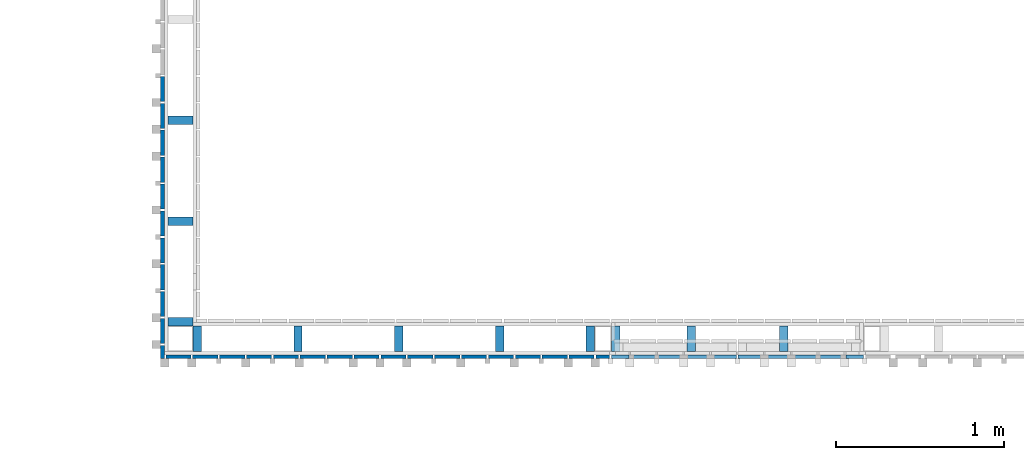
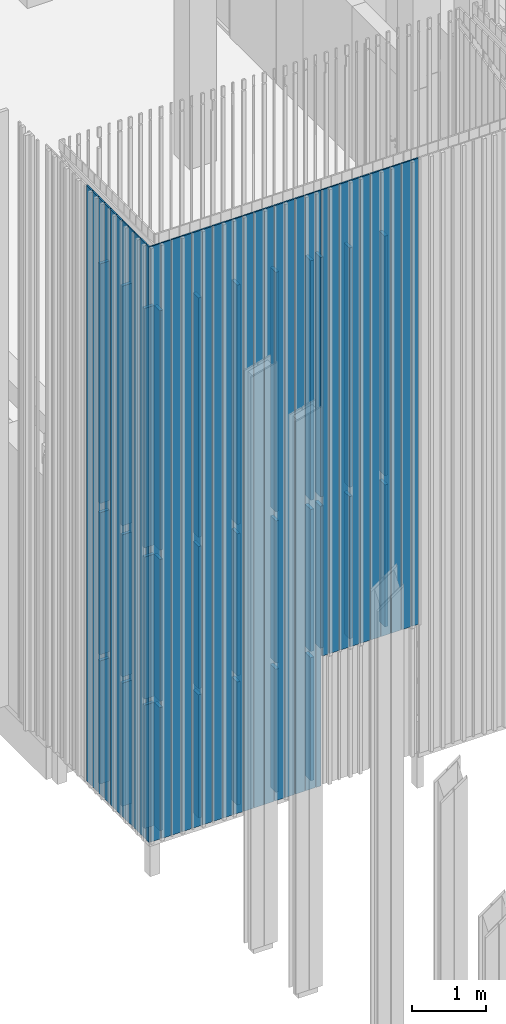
# One storey, part 82 of 390: 68 walls.
"""IFC2X3 building model written with IfcOpenShell, lengths in millimetres."""

from ifc_helpers import new_model, entity, si_unit, converted_unit, derived_unit, money_unit, direction, frame, origin_with_axes, place, context, subcontext, project, spatial, faceted_brep, material, type_object, element, save


model = new_model("IFC2X3")

# Units and contexts
model_context = context("Model", 3, precision=1e-05, world=origin_with_axes(), true_north=direction((0.0, 1.0)))
body_context = subcontext(model_context, "Body", "Model", "MODEL_VIEW")
ifc_project = project(units=[si_unit("LENGTHUNIT", "METRE", prefix="MILLI"), si_unit("AREAUNIT", "SQUARE_METRE"), si_unit("VOLUMEUNIT", "CUBIC_METRE"), converted_unit("PLANEANGLEUNIT", "DEGREE", entity("IfcPlaneAngleMeasure", 0.0174532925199), si_unit("PLANEANGLEUNIT", "RADIAN"), dimensions=[0, 0, 0, 0, 0, 0, 0]), si_unit("SOLIDANGLEUNIT", "STERADIAN"), money_unit("EUR"), converted_unit("TIMEUNIT", "Year", entity("IfcTimeMeasure", 31556926.0), si_unit("TIMEUNIT", "SECOND"), dimensions=[0, 0, 1, 0, 0, 0, 0]), si_unit("MASSUNIT", "GRAM", prefix="KILO"), si_unit("THERMODYNAMICTEMPERATUREUNIT", "DEGREE_CELSIUS"), si_unit("LUMINOUSINTENSITYUNIT", "LUMEN"), si_unit("ENERGYUNIT", "JOULE", prefix="MEGA"), derived_unit("THERMALCONDUCTANCEUNIT", [(si_unit("POWERUNIT", "WATT"), 1), (si_unit("LENGTHUNIT", "METRE"), -1), (si_unit("THERMODYNAMICTEMPERATUREUNIT", "KELVIN"), -1)]), derived_unit("SPECIFICHEATCAPACITYUNIT", [(si_unit("ENERGYUNIT", "JOULE"), 1), (si_unit("MASSUNIT", "GRAM", prefix="KILO"), -1), (si_unit("THERMODYNAMICTEMPERATUREUNIT", "KELVIN"), -1)]), derived_unit("MASSDENSITYUNIT", [(si_unit("MASSUNIT", "GRAM", prefix="KILO"), 1), (si_unit("VOLUMEUNIT", "CUBIC_METRE"), -1)])], contexts=[model_context])

# Site, building, storey
site_placement = place(None, origin_with_axes())
site = spatial("IfcSite", under=ifc_project, at=site_placement, Name="Site", CompositionType="ELEMENT")
building_placement = place(site_placement, origin_with_axes())
building = spatial("IfcBuilding", under=site, at=building_placement, Name="Building", CompositionType="ELEMENT")
storey_placement = place(building_placement, origin_with_axes())
storey = spatial("IfcBuildingStorey", under=building, at=storey_placement, Name="1 korrus", CompositionType="ELEMENT", Elevation=0.0)

# Walls
ifc_material = material(Name="Site specified")
wall_type = type_object("IfcWallType", Name="Puitfassaadi ribistik", PredefinedType="NOTDEFINED")
wall_1_placement = place(storey_placement, frame((125594.99996, 42599.000112, 4800.00000001), z_axis=(0.0, 0.0, 1.0), x_axis=(-1.0, 0.0, 0.0)))
element("IfcWall", 1, at=wall_1_placement, inside=storey, type_object=wall_type, material=ifc_material, Name="Site specified", context=body_context, shape_type="Brep", body=[
    faceted_brep([(25.0, -74.9999999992, 3927.99999761), (-25.0, -74.9999999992, 3927.99999761), (-25.0, -74.9999999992, 0.0), (25.0, -74.9999999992, 0.0), (25.0, 74.9999999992, 3927.99999761), (-25.0, 74.9999999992, 3927.99999761), (-25.0, 74.9999999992, 0.0), (25.0, 74.9999999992, 0.0)], [[[0, 1, 2, 3]], [[4, 5, 1, 0]], [[1, 5, 6, 2]], [[7, 3, 2, 6]], [[4, 0, 3, 7]], [[5, 4, 7, 6]]]),
])
wall_2_placement = place(storey_placement, frame((125469.99996, 42492.0000216, 2220.00000001), z_axis=(0.0, 0.0, 1.0), x_axis=(-1.0, 0.0, 0.0)))
element("IfcWall", 2, at=wall_2_placement, inside=storey, type_object=wall_type, material=ifc_material, Name="Site specified", context=body_context, shape_type="Brep", body=[
    faceted_brep([(75.0, -11.0000000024, 7644.99999999), (-75.0, -11.0000000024, 7644.99999999), (-75.0, -11.0000000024, 0.0), (75.0, -11.0000000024, 0.0), (75.0, 11.0000000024, 7644.99999999), (-75.0, 11.0000000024, 7644.99999999), (-75.0, 11.0000000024, 0.0), (75.0, 11.0000000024, 0.0)], [[[0, 1, 2, 3]], [[4, 5, 1, 0]], [[1, 5, 6, 2]], [[7, 3, 2, 6]], [[4, 0, 3, 7]], [[5, 4, 7, 6]]]),
])
wall_3_placement = place(storey_placement, frame((125172.49996, 42492.0000291, 2220.00000001), z_axis=(0.0, 0.0, 1.0), x_axis=(-1.0, 0.0, 0.0)))
element("IfcWall", 3, at=wall_3_placement, inside=storey, type_object=wall_type, material=ifc_material, Name="Site specified", context=body_context, shape_type="Brep", body=[
    faceted_brep([(52.5, -11.0000000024, 7644.99999999), (-52.5, -11.0000000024, 7644.99999999), (-52.5, -11.0000000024, 0.0), (52.5, -11.0000000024, 0.0), (52.5, 11.0000000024, 7644.99999999), (-52.5, 11.0000000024, 7644.99999999), (-52.5, 11.0000000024, 0.0), (52.5, 11.0000000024, 0.0)], [[[0, 1, 2, 3]], [[4, 5, 1, 0]], [[1, 5, 6, 2]], [[7, 3, 2, 6]], [[4, 0, 3, 7]], [[5, 4, 7, 6]]]),
])
for number, where, z_axis, x_axis, name in (
    (4, (125309.99996, 42492.0000216, 2220.00000001), (0.0, 0.0, 1.0), (-1.0, 0.0, 0.0), "Site specified"),
    (5, (125949.99996, 42492.0000216, 2220.00000001), (0.0, 0.0, 1.0), (-1.0, 0.0, 0.0), "Site specified"),
    (6, (126429.99996, 42492.0000216, 2220.00000001), (0.0, 0.0, 1.0), (-1.0, 0.0, 0.0), "Site specified"),
    (7, (126109.99996, 42492.0000216, 2220.00000001), (0.0, 0.0, 1.0), (-1.0, 0.0, 0.0), "Site specified"),
    (8, (126269.99996, 42492.0000216, 2220.00000001), (0.0, 0.0, 1.0), (-1.0, 0.0, 0.0), "Site specified"),
    (9, (125789.99996, 42492.0000216, 2220.00000001), (0.0, 0.0, 1.0), (-1.0, 0.0, 0.0), "Site specified"),
):
    element("IfcWall", number, at=place(storey_placement, frame(where, z_axis=z_axis, x_axis=x_axis)), inside=storey, type_object=wall_type, material=ifc_material, Name=name, context=body_context, shape_type="Brep", body=[
        faceted_brep([(75.0, -11.0000000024, 7644.99999999), (-75.0, -11.0000000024, 7644.99999999), (-75.0, -11.0000000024, 0.0), (75.0, -11.0000000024, 0.0), (75.0, 11.0000000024, 7644.99999999), (-75.0, 11.0000000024, 7644.99999999), (-75.0, 11.0000000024, 0.0), (75.0, 11.0000000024, 0.0)], [[[0, 1, 2, 3]], [[4, 5, 1, 0]], [[1, 5, 6, 2]], [[7, 3, 2, 6]], [[4, 0, 3, 7]], [[5, 4, 7, 6]]]),
    ])
for number, where, z_axis, x_axis, name in (
    (10, (123662.99996, 42492.0000895, 100.000000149), (0.0, 0.0, 1.0), (-1.0, 0.0, 0.0), "Site specified"),
    (11, (122447.99996, 43285.0001117, 100.000000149), (0.0, 0.0, 1.0), (0.0, 1.0, 0.0), "Site specified"),
    (12, (122447.99996, 43445.0001117, 100.000000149), (0.0, 0.0, 1.0), (0.0, 1.0, 0.0), "Site specified"),
    (13, (122447.99996, 43605.0001117, 100.000000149), (0.0, 0.0, 1.0), (0.0, 1.0, 0.0), "Site specified"),
    (14, (122447.99996, 43765.0001117, 100.000000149), (0.0, 0.0, 1.0), (0.0, 1.0, 0.0), "Site specified"),
    (15, (122447.99996, 43925.0001117, 100.000000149), (0.0, 0.0, 1.0), (0.0, 1.0, 0.0), "Site specified"),
    (16, (122447.99996, 44085.0001117, 100.000000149), (0.0, 0.0, 1.0), (0.0, 1.0, 0.0), "Site specified"),
):
    element("IfcWall", number, at=place(storey_placement, frame(where, z_axis=z_axis, x_axis=x_axis)), inside=storey, type_object=wall_type, material=ifc_material, Name=name, context=body_context, shape_type="Brep", body=[
        faceted_brep([(75.0, -11.0000000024, 9764.99999985), (-75.0, -11.0000000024, 9764.99999985), (-75.0, -11.0000000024, 0.0), (75.0, -11.0000000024, 0.0), (75.0, 11.0000000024, 9764.99999985), (-75.0, 11.0000000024, 9764.99999985), (-75.0, 11.0000000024, 0.0), (75.0, 11.0000000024, 0.0)], [[[0, 1, 2, 3]], [[4, 5, 1, 0]], [[1, 5, 6, 2]], [[7, 3, 2, 6]], [[4, 0, 3, 7]], [[5, 4, 7, 6]]]),
    ])
wall_4_placement = place(storey_placement, frame((126567.49996, 42492.0000291, 2220.00000001), z_axis=(0.0, 0.0, 1.0), x_axis=(-1.0, 0.0, 0.0)))
element("IfcWall", 17, at=wall_4_placement, inside=storey, type_object=wall_type, material=ifc_material, Name="Site specified", context=body_context, shape_type="Brep", body=[
    faceted_brep([(52.4999999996, -11.0000000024, 7644.99999999), (-52.4999999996, -11.0000000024, 7644.99999999), (-52.4999999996, -11.0000000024, 0.0), (52.4999999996, -11.0000000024, 0.0), (52.4999999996, 11.0000000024, 7644.99999999), (-52.4999999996, 11.0000000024, 7644.99999999), (-52.4999999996, 11.0000000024, 0.0), (52.4999999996, 11.0000000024, 0.0)], [[[0, 1, 2, 3]], [[4, 5, 1, 0]], [[1, 5, 6, 2]], [[7, 3, 2, 6]], [[4, 0, 3, 7]], [[5, 4, 7, 6]]]),
])
wall_5_placement = place(storey_placement, frame((122554.99996, 42699.000112, 4800.00000001), z_axis=(0.0, 0.0, 1.0), x_axis=(0.0, 1.0, 0.0)))
element("IfcWall", 18, at=wall_5_placement, inside=storey, type_object=wall_type, material=ifc_material, Name="Site specified", context=body_context, shape_type="Brep", body=[
    faceted_brep([(25.0, -74.9999999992, 3927.99999761), (-25.0, -74.9999999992, 3927.99999761), (-25.0, -74.9999999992, 0.0), (25.0, -74.9999999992, 0.0), (25.0, 74.9999999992, 3927.99999761), (-25.0, 74.9999999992, 3927.99999761), (-25.0, 74.9999999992, 0.0), (25.0, 74.9999999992, 0.0)], [[[0, 1, 2, 3]], [[4, 5, 1, 0]], [[1, 5, 6, 2]], [[7, 3, 2, 6]], [[4, 0, 3, 7]], [[5, 4, 7, 6]]]),
])
wall_6_placement = place(storey_placement, frame((122554.99996, 42699.000112, 2320.00000001), z_axis=(0.0, 0.0, 1.0), x_axis=(0.0, 1.0, 0.0)))
element("IfcWall", 19, at=wall_6_placement, inside=storey, type_object=wall_type, material=ifc_material, Name="Site specified", context=body_context, shape_type="Brep", body=[
    faceted_brep([(25.0, -74.9999999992, 2330.0), (-25.0, -74.9999999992, 2330.0), (-25.0, -74.9999999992, 0.0), (25.0, -74.9999999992, 0.0), (25.0, 74.9999999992, 2330.0), (-25.0, 74.9999999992, 2330.0), (-25.0, 74.9999999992, 0.0), (25.0, 74.9999999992, 0.0)], [[[0, 1, 2, 3]], [[4, 5, 1, 0]], [[1, 5, 6, 2]], [[7, 3, 2, 6]], [[4, 0, 3, 7]], [[5, 4, 7, 6]]]),
])
wall_7_placement = place(storey_placement, frame((125629.99996, 42492.0000216, 2220.00000001), z_axis=(0.0, 0.0, 1.0), x_axis=(-1.0, 0.0, 0.0)))
element("IfcWall", 20, at=wall_7_placement, inside=storey, type_object=wall_type, material=ifc_material, Name="Site specified", context=body_context, shape_type="Brep", body=[
    faceted_brep([(75.0, -11.0000000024, 7644.99999999), (-75.0, -11.0000000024, 7644.99999999), (-75.0, -11.0000000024, 0.0), (75.0, -11.0000000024, 0.0), (75.0, 11.0000000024, 7644.99999999), (-75.0, 11.0000000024, 7644.99999999), (-75.0, 11.0000000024, 0.0), (75.0, 11.0000000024, 0.0)], [[[0, 1, 2, 3]], [[4, 5, 1, 0]], [[1, 5, 6, 2]], [[7, 3, 2, 6]], [[4, 0, 3, 7]], [[5, 4, 7, 6]]]),
])
wall_8_placement = place(storey_placement, frame((122554.99996, 43899.0001117, 4800.00000001), z_axis=(0.0, 0.0, 1.0), x_axis=(0.0, 1.0, 0.0)))
element("IfcWall", 21, at=wall_8_placement, inside=storey, type_object=wall_type, material=ifc_material, Name="Site specified", context=body_context, shape_type="Brep", body=[
    faceted_brep([(25.0, -74.9999999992, 3927.99999761), (-25.0, -74.9999999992, 3927.99999761), (-25.0, -74.9999999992, 0.0), (25.0, -74.9999999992, 0.0), (25.0, 74.9999999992, 3927.99999761), (-25.0, 74.9999999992, 3927.99999761), (-25.0, 74.9999999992, 0.0), (25.0, 74.9999999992, 0.0)], [[[0, 1, 2, 3]], [[4, 5, 1, 0]], [[1, 5, 6, 2]], [[7, 3, 2, 6]], [[4, 0, 3, 7]], [[5, 4, 7, 6]]]),
])
wall_9_placement = place(storey_placement, frame((122554.99996, 43899.0001117, 2320.00000001), z_axis=(0.0, 0.0, 1.0), x_axis=(0.0, 1.0, 0.0)))
element("IfcWall", 22, at=wall_9_placement, inside=storey, type_object=wall_type, material=ifc_material, Name="Site specified", context=body_context, shape_type="Brep", body=[
    faceted_brep([(25.0, -74.9999999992, 2330.0), (-25.0, -74.9999999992, 2330.0), (-25.0, -74.9999999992, 0.0), (25.0, -74.9999999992, 0.0), (25.0, 74.9999999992, 2330.0), (-25.0, 74.9999999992, 2330.0), (-25.0, 74.9999999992, 0.0), (25.0, 74.9999999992, 0.0)], [[[0, 1, 2, 3]], [[4, 5, 1, 0]], [[1, 5, 6, 2]], [[7, 3, 2, 6]], [[4, 0, 3, 7]], [[5, 4, 7, 6]]]),
])
wall_10_placement = place(storey_placement, frame((122554.99996, 43899.0001117, 200.000000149), z_axis=(0.0, 0.0, 1.0), x_axis=(0.0, 1.0, 0.0)))
element("IfcWall", 23, at=wall_10_placement, inside=storey, type_object=wall_type, material=ifc_material, Name="Site specified", context=body_context, shape_type="Brep", body=[
    faceted_brep([(25.0, -74.9999999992, 2019.99999987), (-25.0, -74.9999999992, 2019.99999987), (-25.0, -74.9999999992, 0.0), (25.0, -74.9999999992, 0.0), (25.0, 74.9999999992, 2019.99999987), (-25.0, 74.9999999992, 2019.99999987), (-25.0, 74.9999999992, 0.0), (25.0, 74.9999999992, 0.0)], [[[0, 1, 2, 3]], [[4, 5, 1, 0]], [[1, 5, 6, 2]], [[7, 3, 2, 6]], [[4, 0, 3, 7]], [[5, 4, 7, 6]]]),
])
wall_11_placement = place(storey_placement, frame((122554.99996, 43299.0001117, 4800.00000001), z_axis=(0.0, 0.0, 1.0), x_axis=(0.0, 1.0, 0.0)))
element("IfcWall", 24, at=wall_11_placement, inside=storey, type_object=wall_type, material=ifc_material, Name="Site specified", context=body_context, shape_type="Brep", body=[
    faceted_brep([(25.0, -74.9999999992, 3927.99999761), (-25.0, -74.9999999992, 3927.99999761), (-25.0, -74.9999999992, 0.0), (25.0, -74.9999999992, 0.0), (25.0, 74.9999999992, 3927.99999761), (-25.0, 74.9999999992, 3927.99999761), (-25.0, 74.9999999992, 0.0), (25.0, 74.9999999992, 0.0)], [[[0, 1, 2, 3]], [[4, 5, 1, 0]], [[1, 5, 6, 2]], [[7, 3, 2, 6]], [[4, 0, 3, 7]], [[5, 4, 7, 6]]]),
])
wall_12_placement = place(storey_placement, frame((122554.99996, 43299.0001117, 2320.00000001), z_axis=(0.0, 0.0, 1.0), x_axis=(0.0, 1.0, 0.0)))
element("IfcWall", 25, at=wall_12_placement, inside=storey, type_object=wall_type, material=ifc_material, Name="Site specified", context=body_context, shape_type="Brep", body=[
    faceted_brep([(25.0, -74.9999999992, 2330.0), (-25.0, -74.9999999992, 2330.0), (-25.0, -74.9999999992, 0.0), (25.0, -74.9999999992, 0.0), (25.0, 74.9999999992, 2330.0), (-25.0, 74.9999999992, 2330.0), (-25.0, 74.9999999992, 0.0), (25.0, 74.9999999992, 0.0)], [[[0, 1, 2, 3]], [[4, 5, 1, 0]], [[1, 5, 6, 2]], [[7, 3, 2, 6]], [[4, 0, 3, 7]], [[5, 4, 7, 6]]]),
])
for number, where, z_axis, x_axis, name in (
    (26, (122554.99996, 43299.0001117, 200.000000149), (0.0, 0.0, 1.0), (0.0, 1.0, 0.0), "Site specified"),
    (27, (122554.99996, 42699.000112, 200.000000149), (0.0, 0.0, 1.0), (0.0, 1.0, 0.0), "Site specified"),
):
    element("IfcWall", number, at=place(storey_placement, frame(where, z_axis=z_axis, x_axis=x_axis)), inside=storey, type_object=wall_type, material=ifc_material, Name=name, context=body_context, shape_type="Brep", body=[
        faceted_brep([(25.0, -74.9999999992, 2019.99999987), (-25.0, -74.9999999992, 2019.99999987), (-25.0, -74.9999999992, 0.0), (25.0, -74.9999999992, 0.0), (25.0, 74.9999999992, 2019.99999987), (-25.0, 74.9999999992, 2019.99999987), (-25.0, 74.9999999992, 0.0), (25.0, 74.9999999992, 0.0)], [[[0, 1, 2, 3]], [[4, 5, 1, 0]], [[1, 5, 6, 2]], [[7, 3, 2, 6]], [[4, 0, 3, 7]], [[5, 4, 7, 6]]]),
    ])
wall_13_placement = place(storey_placement, frame((124994.99996, 42599.000112, 4800.00000001), z_axis=(0.0, 0.0, 1.0), x_axis=(-1.0, 0.0, 0.0)))
element("IfcWall", 28, at=wall_13_placement, inside=storey, type_object=wall_type, material=ifc_material, Name="Site specified", context=body_context, shape_type="Brep", body=[
    faceted_brep([(25.0, -74.9999999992, 3927.99999761), (-25.0, -74.9999999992, 3927.99999761), (-25.0, -74.9999999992, 0.0), (25.0, -74.9999999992, 0.0), (25.0, 74.9999999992, 3927.99999761), (-25.0, 74.9999999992, 3927.99999761), (-25.0, 74.9999999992, 0.0), (25.0, 74.9999999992, 0.0)], [[[0, 1, 2, 3]], [[4, 5, 1, 0]], [[1, 5, 6, 2]], [[7, 3, 2, 6]], [[4, 0, 3, 7]], [[5, 4, 7, 6]]]),
])
wall_14_placement = place(storey_placement, frame((124994.99996, 42599.000112, 2320.00000001), z_axis=(0.0, 0.0, 1.0), x_axis=(-1.0, 0.0, 0.0)))
element("IfcWall", 29, at=wall_14_placement, inside=storey, type_object=wall_type, material=ifc_material, Name="Site specified", context=body_context, shape_type="Brep", body=[
    faceted_brep([(25.0, -74.9999999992, 2330.0), (-25.0, -74.9999999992, 2330.0), (-25.0, -74.9999999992, 0.0), (25.0, -74.9999999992, 0.0), (25.0, 74.9999999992, 2330.0), (-25.0, 74.9999999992, 2330.0), (-25.0, 74.9999999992, 0.0), (25.0, 74.9999999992, 0.0)], [[[0, 1, 2, 3]], [[4, 5, 1, 0]], [[1, 5, 6, 2]], [[7, 3, 2, 6]], [[4, 0, 3, 7]], [[5, 4, 7, 6]]]),
])
wall_15_placement = place(storey_placement, frame((124994.99996, 42599.000112, 200.000000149), z_axis=(0.0, 0.0, 1.0), x_axis=(-1.0, 0.0, 0.0)))
element("IfcWall", 30, at=wall_15_placement, inside=storey, type_object=wall_type, material=ifc_material, Name="Site specified", context=body_context, shape_type="Brep", body=[
    faceted_brep([(25.0, -74.9999999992, 2019.99999987), (-25.0, -74.9999999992, 2019.99999987), (-25.0, -74.9999999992, 0.0), (25.0, -74.9999999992, 0.0), (25.0, 74.9999999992, 2019.99999987), (-25.0, 74.9999999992, 2019.99999987), (-25.0, 74.9999999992, 0.0), (25.0, 74.9999999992, 0.0)], [[[0, 1, 2, 3]], [[4, 5, 1, 0]], [[1, 5, 6, 2]], [[7, 3, 2, 6]], [[4, 0, 3, 7]], [[5, 4, 7, 6]]]),
])
wall_16_placement = place(storey_placement, frame((124454.99996, 42599.000112, 4800.00000001), z_axis=(0.0, 0.0, 1.0), x_axis=(-1.0, 0.0, 0.0)))
element("IfcWall", 31, at=wall_16_placement, inside=storey, type_object=wall_type, material=ifc_material, Name="Site specified", context=body_context, shape_type="Brep", body=[
    faceted_brep([(25.0, -74.9999999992, 3927.99999761), (-25.0, -74.9999999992, 3927.99999761), (-25.0, -74.9999999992, 0.0), (25.0, -74.9999999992, 0.0), (25.0, 74.9999999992, 3927.99999761), (-25.0, 74.9999999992, 3927.99999761), (-25.0, 74.9999999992, 0.0), (25.0, 74.9999999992, 0.0)], [[[0, 1, 2, 3]], [[4, 5, 1, 0]], [[1, 5, 6, 2]], [[7, 3, 2, 6]], [[4, 0, 3, 7]], [[5, 4, 7, 6]]]),
])
wall_17_placement = place(storey_placement, frame((124454.99996, 42599.000112, 2320.00000001), z_axis=(0.0, 0.0, 1.0), x_axis=(-1.0, 0.0, 0.0)))
element("IfcWall", 32, at=wall_17_placement, inside=storey, type_object=wall_type, material=ifc_material, Name="Site specified", context=body_context, shape_type="Brep", body=[
    faceted_brep([(25.0, -74.9999999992, 2330.0), (-25.0, -74.9999999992, 2330.0), (-25.0, -74.9999999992, 0.0), (25.0, -74.9999999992, 0.0), (25.0, 74.9999999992, 2330.0), (-25.0, 74.9999999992, 2330.0), (-25.0, 74.9999999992, 0.0), (25.0, 74.9999999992, 0.0)], [[[0, 1, 2, 3]], [[4, 5, 1, 0]], [[1, 5, 6, 2]], [[7, 3, 2, 6]], [[4, 0, 3, 7]], [[5, 4, 7, 6]]]),
])
wall_18_placement = place(storey_placement, frame((124454.99996, 42599.000112, 200.000000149), z_axis=(0.0, 0.0, 1.0), x_axis=(-1.0, 0.0, 0.0)))
element("IfcWall", 33, at=wall_18_placement, inside=storey, type_object=wall_type, material=ifc_material, Name="Site specified", context=body_context, shape_type="Brep", body=[
    faceted_brep([(25.0, -74.9999999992, 2019.99999987), (-25.0, -74.9999999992, 2019.99999987), (-25.0, -74.9999999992, 0.0), (25.0, -74.9999999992, 0.0), (25.0, 74.9999999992, 2019.99999987), (-25.0, 74.9999999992, 2019.99999987), (-25.0, 74.9999999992, 0.0), (25.0, 74.9999999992, 0.0)], [[[0, 1, 2, 3]], [[4, 5, 1, 0]], [[1, 5, 6, 2]], [[7, 3, 2, 6]], [[4, 0, 3, 7]], [[5, 4, 7, 6]]]),
])
wall_19_placement = place(storey_placement, frame((123854.99996, 42599.000112, 4800.00000001), z_axis=(0.0, 0.0, 1.0), x_axis=(-1.0, 0.0, 0.0)))
element("IfcWall", 34, at=wall_19_placement, inside=storey, type_object=wall_type, material=ifc_material, Name="Site specified", context=body_context, shape_type="Brep", body=[
    faceted_brep([(25.0, -74.9999999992, 3927.99999761), (-25.0, -74.9999999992, 3927.99999761), (-25.0, -74.9999999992, 0.0), (25.0, -74.9999999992, 0.0), (25.0, 74.9999999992, 3927.99999761), (-25.0, 74.9999999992, 3927.99999761), (-25.0, 74.9999999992, 0.0), (25.0, 74.9999999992, 0.0)], [[[0, 1, 2, 3]], [[4, 5, 1, 0]], [[1, 5, 6, 2]], [[7, 3, 2, 6]], [[4, 0, 3, 7]], [[5, 4, 7, 6]]]),
])
wall_20_placement = place(storey_placement, frame((123854.99996, 42599.000112, 2320.00000001), z_axis=(0.0, 0.0, 1.0), x_axis=(-1.0, 0.0, 0.0)))
element("IfcWall", 35, at=wall_20_placement, inside=storey, type_object=wall_type, material=ifc_material, Name="Site specified", context=body_context, shape_type="Brep", body=[
    faceted_brep([(25.0, -74.9999999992, 2330.0), (-25.0, -74.9999999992, 2330.0), (-25.0, -74.9999999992, 0.0), (25.0, -74.9999999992, 0.0), (25.0, 74.9999999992, 2330.0), (-25.0, 74.9999999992, 2330.0), (-25.0, 74.9999999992, 0.0), (25.0, 74.9999999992, 0.0)], [[[0, 1, 2, 3]], [[4, 5, 1, 0]], [[1, 5, 6, 2]], [[7, 3, 2, 6]], [[4, 0, 3, 7]], [[5, 4, 7, 6]]]),
])
wall_21_placement = place(storey_placement, frame((123854.99996, 42599.000112, 200.000000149), z_axis=(0.0, 0.0, 1.0), x_axis=(-1.0, 0.0, 0.0)))
element("IfcWall", 36, at=wall_21_placement, inside=storey, type_object=wall_type, material=ifc_material, Name="Site specified", context=body_context, shape_type="Brep", body=[
    faceted_brep([(25.0, -74.9999999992, 2019.99999987), (-25.0, -74.9999999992, 2019.99999987), (-25.0, -74.9999999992, 0.0), (25.0, -74.9999999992, 0.0), (25.0, 74.9999999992, 2019.99999987), (-25.0, 74.9999999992, 2019.99999987), (-25.0, 74.9999999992, 0.0), (25.0, 74.9999999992, 0.0)], [[[0, 1, 2, 3]], [[4, 5, 1, 0]], [[1, 5, 6, 2]], [[7, 3, 2, 6]], [[4, 0, 3, 7]], [[5, 4, 7, 6]]]),
])
wall_22_placement = place(storey_placement, frame((123254.99996, 42599.000112, 4800.00000001), z_axis=(0.0, 0.0, 1.0), x_axis=(-1.0, 0.0, 0.0)))
element("IfcWall", 37, at=wall_22_placement, inside=storey, type_object=wall_type, material=ifc_material, Name="Site specified", context=body_context, shape_type="Brep", body=[
    faceted_brep([(25.0, -74.9999999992, 3927.99999761), (-25.0, -74.9999999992, 3927.99999761), (-25.0, -74.9999999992, 0.0), (25.0, -74.9999999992, 0.0), (25.0, 74.9999999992, 3927.99999761), (-25.0, 74.9999999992, 3927.99999761), (-25.0, 74.9999999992, 0.0), (25.0, 74.9999999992, 0.0)], [[[0, 1, 2, 3]], [[4, 5, 1, 0]], [[1, 5, 6, 2]], [[7, 3, 2, 6]], [[4, 0, 3, 7]], [[5, 4, 7, 6]]]),
])
wall_23_placement = place(storey_placement, frame((123254.99996, 42599.000112, 2320.00000001), z_axis=(0.0, 0.0, 1.0), x_axis=(-1.0, 0.0, 0.0)))
element("IfcWall", 38, at=wall_23_placement, inside=storey, type_object=wall_type, material=ifc_material, Name="Site specified", context=body_context, shape_type="Brep", body=[
    faceted_brep([(25.0, -74.9999999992, 2330.0), (-25.0, -74.9999999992, 2330.0), (-25.0, -74.9999999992, 0.0), (25.0, -74.9999999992, 0.0), (25.0, 74.9999999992, 2330.0), (-25.0, 74.9999999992, 2330.0), (-25.0, 74.9999999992, 0.0), (25.0, 74.9999999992, 0.0)], [[[0, 1, 2, 3]], [[4, 5, 1, 0]], [[1, 5, 6, 2]], [[7, 3, 2, 6]], [[4, 0, 3, 7]], [[5, 4, 7, 6]]]),
])
wall_24_placement = place(storey_placement, frame((123254.99996, 42599.000112, 200.000000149), z_axis=(0.0, 0.0, 1.0), x_axis=(-1.0, 0.0, 0.0)))
element("IfcWall", 39, at=wall_24_placement, inside=storey, type_object=wall_type, material=ifc_material, Name="Site specified", context=body_context, shape_type="Brep", body=[
    faceted_brep([(25.0, -74.9999999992, 2019.99999987), (-25.0, -74.9999999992, 2019.99999987), (-25.0, -74.9999999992, 0.0), (25.0, -74.9999999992, 0.0), (25.0, 74.9999999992, 2019.99999987), (-25.0, 74.9999999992, 2019.99999987), (-25.0, 74.9999999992, 0.0), (25.0, 74.9999999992, 0.0)], [[[0, 1, 2, 3]], [[4, 5, 1, 0]], [[1, 5, 6, 2]], [[7, 3, 2, 6]], [[4, 0, 3, 7]], [[5, 4, 7, 6]]]),
])
wall_25_placement = place(storey_placement, frame((122654.99996, 42599.0001117, 4800.00000001), z_axis=(0.0, 0.0, 1.0), x_axis=(-1.0, 0.0, 0.0)))
element("IfcWall", 40, at=wall_25_placement, inside=storey, type_object=wall_type, material=ifc_material, Name="Site specified", context=body_context, shape_type="Brep", body=[
    faceted_brep([(25.0, -74.9999999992, 3927.99999761), (-25.0, -74.9999999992, 3927.99999761), (-25.0, -74.9999999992, 0.0), (25.0, -74.9999999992, 0.0), (25.0, 74.9999999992, 3927.99999761), (-25.0, 74.9999999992, 3927.99999761), (-25.0, 74.9999999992, 0.0), (25.0, 74.9999999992, 0.0)], [[[0, 1, 2, 3]], [[4, 5, 1, 0]], [[1, 5, 6, 2]], [[7, 3, 2, 6]], [[4, 0, 3, 7]], [[5, 4, 7, 6]]]),
])
wall_26_placement = place(storey_placement, frame((122654.99996, 42599.0001117, 2320.00000001), z_axis=(0.0, 0.0, 1.0), x_axis=(-1.0, 0.0, 0.0)))
element("IfcWall", 41, at=wall_26_placement, inside=storey, type_object=wall_type, material=ifc_material, Name="Site specified", context=body_context, shape_type="Brep", body=[
    faceted_brep([(25.0, -74.9999999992, 2330.0), (-25.0, -74.9999999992, 2330.0), (-25.0, -74.9999999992, 0.0), (25.0, -74.9999999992, 0.0), (25.0, 74.9999999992, 2330.0), (-25.0, 74.9999999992, 2330.0), (-25.0, 74.9999999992, 0.0), (25.0, 74.9999999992, 0.0)], [[[0, 1, 2, 3]], [[4, 5, 1, 0]], [[1, 5, 6, 2]], [[7, 3, 2, 6]], [[4, 0, 3, 7]], [[5, 4, 7, 6]]]),
])
wall_27_placement = place(storey_placement, frame((122654.99996, 42599.0001117, 200.000000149), z_axis=(0.0, 0.0, 1.0), x_axis=(-1.0, 0.0, 0.0)))
element("IfcWall", 42, at=wall_27_placement, inside=storey, type_object=wall_type, material=ifc_material, Name="Site specified", context=body_context, shape_type="Brep", body=[
    faceted_brep([(25.0, -74.9999999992, 2019.99999987), (-25.0, -74.9999999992, 2019.99999987), (-25.0, -74.9999999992, 0.0), (25.0, -74.9999999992, 0.0), (25.0, 74.9999999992, 2019.99999987), (-25.0, 74.9999999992, 2019.99999987), (-25.0, 74.9999999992, 0.0), (25.0, 74.9999999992, 0.0)], [[[0, 1, 2, 3]], [[4, 5, 1, 0]], [[1, 5, 6, 2]], [[7, 3, 2, 6]], [[4, 0, 3, 7]], [[5, 4, 7, 6]]]),
])
for number, where, z_axis, x_axis, name in (
    (43, (122862.99996, 42492.0001045, 100.000000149), (0.0, 0.0, 1.0), (-1.0, 0.0, 0.0), "Site specified"),
    (44, (123022.99996, 42492.0001045, 100.000000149), (0.0, 0.0, 1.0), (-1.0, 0.0, 0.0), "Site specified"),
    (45, (123182.99996, 42492.000097, 100.000000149), (0.0, 0.0, 1.0), (-1.0, 0.0, 0.0), "Site specified"),
    (46, (122702.99996, 42492.000112, 100.000000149), (0.0, 0.0, 1.0), (-1.0, 0.0, 0.0), "Site specified"),
    (47, (122542.99996, 42492.000112, 100.000000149), (0.0, 0.0, 1.0), (-1.0, 0.0, 0.0), "Site specified"),
    (48, (123342.99996, 42492.000097, 100.000000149), (0.0, 0.0, 1.0), (-1.0, 0.0, 0.0), "Site specified"),
    (49, (123502.99996, 42492.0000895, 100.000000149), (0.0, 0.0, 1.0), (-1.0, 0.0, 0.0), "Site specified"),
    (50, (123822.99996, 42492.000082, 100.000000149), (0.0, 0.0, 1.0), (-1.0, 0.0, 0.0), "Site specified"),
    (51, (123982.99996, 42492.000082, 100.000000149), (0.0, 0.0, 1.0), (-1.0, 0.0, 0.0), "Site specified"),
    (52, (124462.99996, 42492.0000745, 100.000000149), (0.0, 0.0, 1.0), (-1.0, 0.0, 0.0), "Site specified"),
    (53, (124142.99996, 42492.0000745, 100.000000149), (0.0, 0.0, 1.0), (-1.0, 0.0, 0.0), "Site specified"),
    (54, (124302.99996, 42492.0000745, 100.000000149), (0.0, 0.0, 1.0), (-1.0, 0.0, 0.0), "Site specified"),
    (55, (124622.99996, 42492.0000745, 100.000000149), (0.0, 0.0, 1.0), (-1.0, 0.0, 0.0), "Site specified"),
    (56, (124782.99996, 42492.0000745, 100.000000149), (0.0, 0.0, 1.0), (-1.0, 0.0, 0.0), "Site specified"),
    (57, (124942.99996, 42492.0000745, 100.000000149), (0.0, 0.0, 1.0), (-1.0, 0.0, 0.0), "Site specified"),
):
    element("IfcWall", number, at=place(storey_placement, frame(where, z_axis=z_axis, x_axis=x_axis)), inside=storey, type_object=wall_type, material=ifc_material, Name=name, context=body_context, shape_type="Brep", body=[
        faceted_brep([(75.0, -11.0000000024, 9764.99999985), (-75.0, -11.0000000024, 9764.99999985), (-75.0, -11.0000000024, 0.0), (75.0, -11.0000000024, 0.0), (75.0, 11.0000000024, 9764.99999985), (-75.0, 11.0000000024, 9764.99999985), (-75.0, 11.0000000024, 0.0), (75.0, 11.0000000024, 0.0)], [[[0, 1, 2, 3]], [[4, 5, 1, 0]], [[1, 5, 6, 2]], [[7, 3, 2, 6]], [[4, 0, 3, 7]], [[5, 4, 7, 6]]]),
    ])
wall_28_placement = place(storey_placement, frame((125067.99996, 42492.0000745, 100.000000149), z_axis=(0.0, 0.0, 1.0), x_axis=(-1.0, 0.0, 0.0)))
element("IfcWall", 58, at=wall_28_placement, inside=storey, type_object=wall_type, material=ifc_material, Name="Site specified", context=body_context, shape_type="Brep", body=[
    faceted_brep([(40.0, -11.0000000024, 9764.99999985), (-40.0, -11.0000000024, 9764.99999985), (-40.0, -11.0000000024, 0.0), (40.0, -11.0000000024, 0.0), (40.0, 11.0000000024, 9764.99999985), (-40.0, 11.0000000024, 9764.99999985), (-40.0, 11.0000000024, 0.0), (40.0, 11.0000000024, 0.0)], [[[0, 1, 2, 3]], [[4, 5, 1, 0]], [[1, 5, 6, 2]], [[7, 3, 2, 6]], [[4, 0, 3, 7]], [[5, 4, 7, 6]]]),
])
wall_29_placement = place(storey_placement, frame((122447.99996, 42520.0000717, 100.000000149), z_axis=(0.0, 0.0, 1.0), x_axis=(0.0, 1.0, 0.0)))
element("IfcWall", 59, at=wall_29_placement, inside=storey, type_object=wall_type, material=ifc_material, Name="Site specified", context=body_context, shape_type="Brep", body=[
    faceted_brep([(40.0000399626, -11.0000000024, 9764.99999985), (-40.0000399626, -11.0000000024, 9764.99999985), (-40.0000399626, -11.0000000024, 0.0), (40.0000399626, -11.0000000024, 0.0), (40.0000399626, 11.0000000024, 9764.99999985), (-40.0000399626, 11.0000000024, 9764.99999985), (-40.0000399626, 11.0000000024, 0.0), (40.0000399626, 11.0000000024, 0.0)], [[[0, 1, 2, 3]], [[4, 5, 1, 0]], [[1, 5, 6, 2]], [[7, 3, 2, 6]], [[4, 0, 3, 7]], [[5, 4, 7, 6]]]),
])
for number, where, z_axis, x_axis, name in (
    (60, (122447.99996, 43125.0001117, 100.000000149), (0.0, 0.0, 1.0), (0.0, 1.0, 0.0), "Site specified"),
    (61, (122447.99996, 42965.0001117, 100.000000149), (0.0, 0.0, 1.0), (0.0, 1.0, 0.0), "Site specified"),
    (62, (122447.99996, 42805.0001117, 100.000000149), (0.0, 0.0, 1.0), (0.0, 1.0, 0.0), "Site specified"),
    (63, (122447.99996, 42645.0001117, 100.000000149), (0.0, 0.0, 1.0), (0.0, 1.0, 0.0), "Site specified"),
):
    element("IfcWall", number, at=place(storey_placement, frame(where, z_axis=z_axis, x_axis=x_axis)), inside=storey, type_object=wall_type, material=ifc_material, Name=name, context=body_context, shape_type="Brep", body=[
        faceted_brep([(75.0, -11.0000000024, 9764.99999985), (-75.0, -11.0000000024, 9764.99999985), (-75.0, -11.0000000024, 0.0), (75.0, -11.0000000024, 0.0), (75.0, 11.0000000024, 9764.99999985), (-75.0, 11.0000000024, 9764.99999985), (-75.0, 11.0000000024, 0.0), (75.0, 11.0000000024, 0.0)], [[[0, 1, 2, 3]], [[4, 5, 1, 0]], [[1, 5, 6, 2]], [[7, 3, 2, 6]], [[4, 0, 3, 7]], [[5, 4, 7, 6]]]),
    ])
for number, where, z_axis, x_axis, name in (
    (64, (125144.99996, 42599.000112, 2320.00000001), (0.0, 0.0, 1.0), (-1.0, 0.0, 0.0), "Site specified"),
    (65, (126144.99996, 42599.000112, 2320.00000001), (0.0, 0.0, 1.0), (-1.0, 0.0, 0.0), "Site specified"),
):
    element("IfcWall", number, at=place(storey_placement, frame(where, z_axis=z_axis, x_axis=x_axis)), inside=storey, type_object=wall_type, material=ifc_material, Name=name, context=body_context, shape_type="Brep", body=[
        faceted_brep([(25.0, -74.9999999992, 2330.0), (-25.0, -74.9999999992, 2330.0), (-25.0, -74.9999999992, 0.0), (25.0, -74.9999999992, 0.0), (25.0, 74.9999999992, 2330.0), (-25.0, 74.9999999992, 2330.0), (-25.0, 74.9999999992, 0.0), (25.0, 74.9999999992, 0.0)], [[[0, 1, 2, 3]], [[4, 5, 1, 0]], [[1, 5, 6, 2]], [[7, 3, 2, 6]], [[4, 0, 3, 7]], [[5, 4, 7, 6]]]),
    ])
wall_30_placement = place(storey_placement, frame((125144.99996, 42599.000112, 4800.00000001), z_axis=(0.0, 0.0, 1.0), x_axis=(-1.0, 0.0, 0.0)))
element("IfcWall", 66, at=wall_30_placement, inside=storey, type_object=wall_type, material=ifc_material, Name="Site specified", context=body_context, shape_type="Brep", body=[
    faceted_brep([(25.0, -74.9999999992, 3927.99999761), (-25.0, -74.9999999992, 3927.99999761), (-25.0, -74.9999999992, 0.0), (25.0, -74.9999999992, 0.0), (25.0, 74.9999999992, 3927.99999761), (-25.0, 74.9999999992, 3927.99999761), (-25.0, 74.9999999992, 0.0), (25.0, 74.9999999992, 0.0)], [[[0, 1, 2, 3]], [[4, 5, 1, 0]], [[1, 5, 6, 2]], [[7, 3, 2, 6]], [[4, 0, 3, 7]], [[5, 4, 7, 6]]]),
])
wall_31_placement = place(storey_placement, frame((125594.99996, 42599.000112, 2320.00000001), z_axis=(0.0, 0.0, 1.0), x_axis=(-1.0, 0.0, 0.0)))
element("IfcWall", 67, at=wall_31_placement, inside=storey, type_object=wall_type, material=ifc_material, Name="Site specified", context=body_context, shape_type="Brep", body=[
    faceted_brep([(25.0, -74.9999999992, 2330.0), (-25.0, -74.9999999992, 2330.0), (-25.0, -74.9999999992, 0.0), (25.0, -74.9999999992, 0.0), (25.0, 74.9999999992, 2330.0), (-25.0, 74.9999999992, 2330.0), (-25.0, 74.9999999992, 0.0), (25.0, 74.9999999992, 0.0)], [[[0, 1, 2, 3]], [[4, 5, 1, 0]], [[1, 5, 6, 2]], [[7, 3, 2, 6]], [[4, 0, 3, 7]], [[5, 4, 7, 6]]]),
])
wall_32_placement = place(storey_placement, frame((126144.99996, 42599.000112, 4800.00000001), z_axis=(0.0, 0.0, 1.0), x_axis=(-1.0, 0.0, 0.0)))
element("IfcWall", 68, at=wall_32_placement, inside=storey, type_object=wall_type, material=ifc_material, Name="Site specified", context=body_context, shape_type="Brep", body=[
    faceted_brep([(25.0, -74.9999999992, 3927.99999761), (-25.0, -74.9999999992, 3927.99999761), (-25.0, -74.9999999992, 0.0), (25.0, -74.9999999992, 0.0), (25.0, 74.9999999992, 3927.99999761), (-25.0, 74.9999999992, 3927.99999761), (-25.0, 74.9999999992, 0.0), (25.0, 74.9999999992, 0.0)], [[[0, 1, 2, 3]], [[4, 5, 1, 0]], [[1, 5, 6, 2]], [[7, 3, 2, 6]], [[4, 0, 3, 7]], [[5, 4, 7, 6]]]),
])

save(model, "model.ifc")
